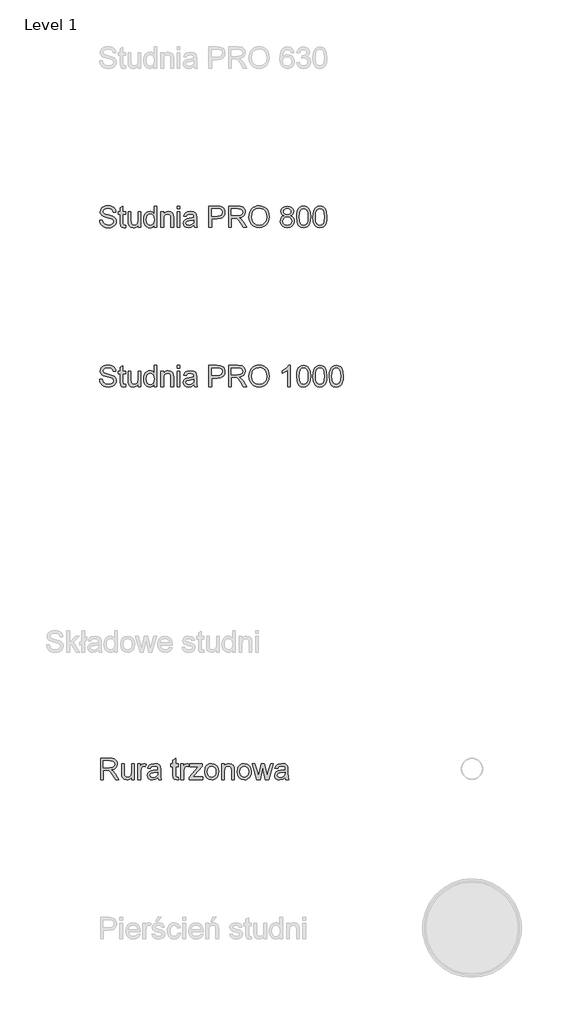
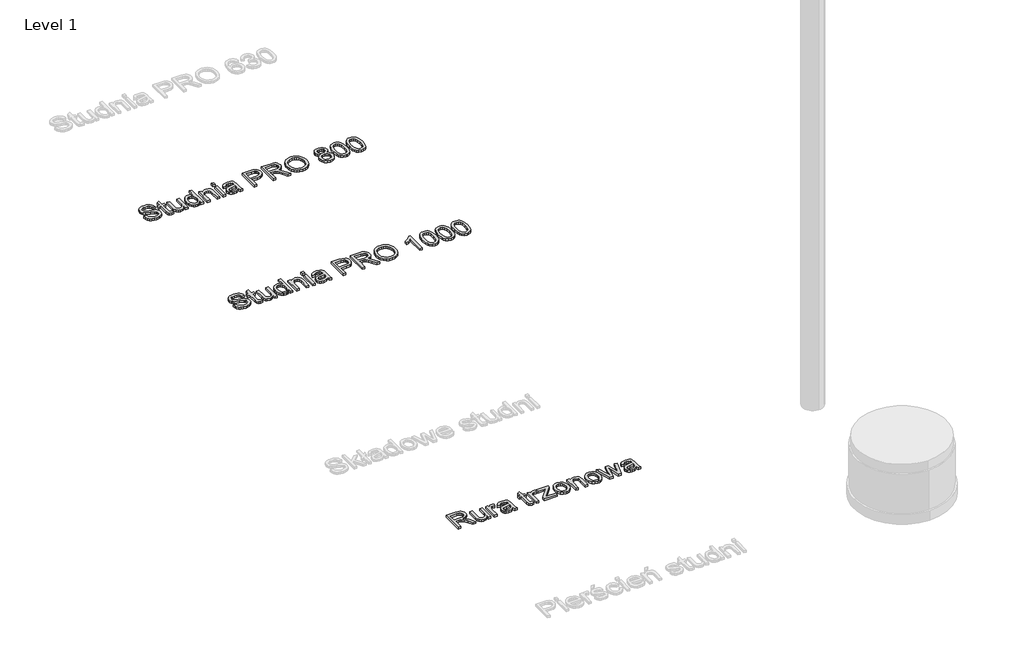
# One storey, part 5 of 8: 3 proxies.
"""IFC4 building model written with IfcOpenShell, lengths in millimetres."""

from ifc_helpers import new_model, si_unit, origin, origin_with_axes, place, context, project, spatial, polyline, outline, extrude, element, save

model = new_model("IFC4")

# Units and contexts
model_context = context("Model", 3, world=origin())
ifc_project = project(units=[si_unit("LENGTHUNIT", "METRE", prefix="MILLI")], contexts=[model_context])

# Site, building, storey
site = spatial("IfcSite", under=ifc_project)
building = spatial("IfcBuilding", under=site)
storey = spatial("IfcBuildingStorey", under=building, Name="Level 1", Elevation=0.0)

# Proxies
placement = place(None, origin())
element("IfcBuildingElementProxy", 1, Name="200mm Arial", ObjectType="200mm Arial", at=placement, inside=storey, context=model_context, shape_type="SweptSolid", body=[
    extrude(outline(polyline([(-16840.1100864, -7744.8858597), (-16814.9960089, -7744.8858597), (-16806.902605, -7770.0244627), (-16798.7724129, -7778.9149443), (-16787.1350791, -7785.9169649), (-16772.9103087, -7790.4603076), (-16757.0178065, -7791.9747551), (-16730.7755575, -7787.3884929), (-16713.8284602, -7774.7824032), (-16708.2611794, -7757.9334078), (-16712.4305087, -7742.2616348), (-16718.7826044, -7736.0628232), (-16729.5002332, -7730.857293), (-16766.0677036, -7721.2678356), (-16805.431077, -7708.8824751), (-16817.9329335, -7700.433452), (-16826.7927582, -7690.1940698), (-16832.0718649, -7678.3850577), (-16833.8315671, -7665.227145), (-16831.6549319, -7650.5179966), (-16825.1250265, -7636.8021295), (-16814.4135291, -7625.1770585), (-16799.6921179, -7616.7402981), (-16782.0215194, -7611.6083442), (-16762.46246, -7609.897693), (-16741.2724571, -7611.688052), (-16722.7312045, -7617.0591291), (-16707.5008899, -7625.9005598), (-16696.2437009, -7638.1019793), (-16689.1190529, -7652.9030982), (-16686.2863615, -7669.5436271), (-16711.4004391, -7669.5436271), (-16716.0112267, -7654.5585672), (-16725.6252095, -7643.7428365), (-16740.6470577, -7637.194537), (-16761.4814413, -7635.0117705), (-16782.8063343, -7637.1700115), (-16797.435775, -7643.6447347), (-16805.8970609, -7653.1728783), (-16808.7174895, -7664.491381), (-16806.718664, -7674.1421521), (-16800.7221875, -7681.9044622), (-16786.5464679, -7688.8451691), (-16759.7156078, -7695.9330289), (-16715.2754628, -7708.5391186), (-16700.9587218, -7717.6503293), (-16690.9707256, -7728.8952557), (-16685.1030078, -7742.1512702), (-16683.1471018, -7757.2957457), (-16685.3973134, -7772.7774463), (-16692.147948, -7787.339442), (-16703.1230942, -7799.8719553), (-16718.0468404, -7809.2652089), (-16735.9933504, -7815.1329267), (-16756.0367878, -7817.0888326), (-16780.6419619, -7814.9796425), (-16800.8938658, -7808.6520722), (-16817.0254912, -7798.0815962), (-16829.2698303, -7783.2436891), (-16837.1302423, -7765.1684204), (-16840.1100864, -7744.8858597)])), origin_with_axes(), (0.0, 0.0, 1.0), 20.0),
    extrude(outline(polyline([(-16595.2478305, -7793.0048247), (-16592.1085708, -7814.6853369), (-16610.895078, -7817.0888326), (-16631.9379281, -7812.9195034), (-16642.4348277, -7801.9811454), (-16645.4759855, -7773.4825535), (-16645.4759855, -7691.518445), (-16664.3115437, -7691.518445), (-16664.3115437, -7666.4043674), (-16645.4759855, -7666.4043674), (-16645.4759855, -7630.5481356), (-16620.361908, -7615.7838049), (-16620.361908, -7666.4043674), (-16595.2478305, -7666.4043674), (-16595.2478305, -7691.518445), (-16620.361908, -7691.518445), (-16620.361908, -7772.7467895), (-16619.0375328, -7785.6962357), (-16614.7455762, -7790.2824979), (-16606.1861884, -7791.9747551), (-16595.2478305, -7793.0048247)])), origin_with_axes(), (0.0, 0.0, 1.0), 20.0),
    extrude(outline(polyline([(-16475.9559622, -7813.949573), (-16475.9559622, -7788.5902408), (-16485.0426474, -7801.0583747), (-16495.6253862, -7809.9641847), (-16507.7041783, -7815.3076707), (-16521.279024, -7817.0888326), (-16544.8970481, -7812.0856375), (-16561.1819577, -7799.5285987), (-16568.6622249, -7781.0363971), (-16570.1337529, -7757.6881532), (-16570.1337529, -7666.4043674), (-16545.0196754, -7666.4043674), (-16545.0196754, -7745.8668784), (-16543.4990965, -7771.4714652), (-16539.8386706, -7780.0124589), (-16533.5662826, -7786.5055761), (-16514.8533518, -7791.9747551), (-16493.8840781, -7786.3829488), (-16485.5270254, -7779.779467), (-16480.0271896, -7771.1526342), (-16475.9559622, -7743.1690771), (-16475.9559622, -7666.4043674), (-16450.8418846, -7666.4043674), (-16450.8418846, -7813.949573), (-16475.9559622, -7813.949573)])), origin_with_axes(), (0.0, 0.0, 1.0), 20.0),
    extrude(outline(polyline([(-16325.2714969, -7813.949573), (-16325.2714969, -7790.2579725), (-16332.7854867, -7801.9964738), (-16341.8875004, -7810.3811176), (-16352.577538, -7815.4119039), (-16364.8555996, -7817.0888326), (-16381.0914583, -7814.6608115), (-16395.9538909, -7807.376748), (-16408.5354552, -7795.7455456), (-16417.9287088, -7780.2761077), (-16423.7780325, -7761.5938337), (-16425.7278071, -7740.324123), (-16423.9313167, -7719.3180611), (-16418.5418454, -7700.3476128), (-16409.5655248, -7684.4918989), (-16397.008486, -7672.8300396), (-16381.821091, -7665.6563407), (-16364.9537015, -7663.2651077), (-16352.6664428, -7664.975759), (-16341.8016612, -7670.1077128), (-16325.2714969, -7687.8886759), (-16325.2714969, -7613.0369527), (-16300.1574194, -7613.0369527), (-16300.1574194, -7813.949573), (-16325.2714969, -7813.949573)]), holes=[polyline([(-16400.6137295, -7740.2260211), (-16397.7810382, -7762.9427343), (-16389.2829641, -7779.0988853), (-16376.9343918, -7788.7557877), (-16362.5502058, -7791.9747551), (-16348.1721511, -7788.9029404), (-16336.1362785, -7779.6874965), (-16327.9876923, -7764.1567449), (-16325.2714969, -7742.1390075), (-16328.0367433, -7718.0672623), (-16336.3324823, -7701.3776824), (-16348.6749232, -7691.6288096), (-16363.5802754, -7688.3791853), (-16378.1116142, -7691.5000509), (-16390.0187281, -7700.8626476), (-16397.9649792, -7716.9452222), (-16400.6137295, -7740.2260211)])]), origin_with_axes(), (0.0, 0.0, 1.0), 20.0),
    extrude(outline(polyline([(-16262.4863031, -7813.949573), (-16262.4863031, -7666.4043674), (-16237.3722255, -7666.4043674), (-16237.3722255, -7687.0057592), (-16228.6472909, -7676.6192242), (-16218.1687854, -7669.2002706), (-16205.9367091, -7664.7488984), (-16191.9510619, -7663.2651077), (-16168.2349359, -7668.0475737), (-16152.0481281, -7680.6046124), (-16144.51881, -7699.0722886), (-16143.1944348, -7723.3525003), (-16143.1944348, -7813.949573), (-16168.3085123, -7813.949573), (-16168.3085123, -7726.7370146), (-16171.2025174, -7704.5169421), (-16181.4296368, -7692.7692437), (-16198.6710397, -7688.3791853), (-16213.3801881, -7690.8439946), (-16225.9188328, -7698.2384227), (-16234.5088774, -7712.5245069), (-16237.3722255, -7735.6642844), (-16237.3722255, -7813.949573), (-16262.4863031, -7813.949573)])), origin_with_axes(), (0.0, 0.0, 1.0), 20.0),
    extrude(outline(polyline([(-16108.6625782, -7638.1510302), (-16108.6625782, -7613.0369527), (-16083.5485006, -7613.0369527), (-16083.5485006, -7638.1510302), (-16108.6625782, -7638.1510302)])), origin_with_axes(), (0.0, 0.0, 1.0), 20.0),
    extrude(outline(polyline([(-16108.6625782, -7813.949573), (-16108.6625782, -7666.4043674), (-16083.5485006, -7666.4043674), (-16083.5485006, -7813.949573), (-16108.6625782, -7813.949573)])), origin_with_axes(), (0.0, 0.0, 1.0), 20.0),
    extrude(outline(polyline([(-15951.6995936, -7795.1140148), (-15976.0533816, -7812.1346884), (-16002.9578182, -7817.0888326), (-16023.945486, -7814.1089885), (-16039.4271867, -7805.169456), (-16048.9737245, -7791.5946104), (-16052.1559037, -7774.7088268), (-16047.3489123, -7754.8431991), (-16034.7182971, -7740.4222249), (-16017.1335378, -7732.1816682), (-15995.4039746, -7728.4047463), (-15951.8467464, -7719.7717822), (-15951.6995936, -7714.1799759), (-15953.4286389, -7702.9718377), (-15958.6157751, -7695.6387233), (-15970.2163207, -7690.1940698), (-15986.378603, -7688.3791853), (-16001.3391374, -7689.5870645), (-16011.7869861, -7693.2107021), (-16018.9116341, -7699.9122858), (-16023.9025665, -7710.3540031), (-16049.016644, -7707.2147434), (-16038.1518624, -7682.6892771), (-16028.8934989, -7674.4364576), (-16016.2751464, -7668.3173538), (-15983.1412414, -7663.2651077), (-15952.7051377, -7667.7287426), (-15935.5127858, -7678.9368807), (-15927.8117893, -7695.9820798), (-15926.585516, -7717.9568977), (-15926.585516, -7749.2023418), (-15925.3101918, -7792.8331464), (-15920.3069966, -7813.949573), (-15945.4210742, -7813.949573), (-15951.6995936, -7795.1140148)]), holes=[polyline([(-15951.6995936, -7744.8858597), (-15992.215664, -7752.5868562), (-16013.8225998, -7756.6580836), (-16023.6082609, -7763.2799595), (-16027.0418262, -7772.9429932), (-16025.1717594, -7780.4109977), (-16019.5615589, -7786.5301016), (-16010.3338522, -7790.6135917), (-15997.6112666, -7791.9747551), (-15984.1222601, -7790.4725703), (-15972.2028834, -7785.9660159), (-15955.8198719, -7771.4224143), (-15951.8467464, -7751.998245), (-15951.6995936, -7744.8858597)])]), origin_with_axes(), (0.0, 0.0, 1.0), 20.0),
    extrude(outline(polyline([(-15810.4329074, -7813.949573), (-15810.4329074, -7613.0369527), (-15735.9735916, -7613.0369527), (-15705.9544208, -7614.949939), (-15681.5515818, -7624.3431926), (-15672.6794943, -7632.6695885), (-15665.732656, -7643.767362), (-15661.2444956, -7656.8578296), (-15659.7484422, -7671.1623079), (-15663.7890128, -7694.8416456), (-15675.9107245, -7714.5723833), (-15685.6182107, -7722.3408248), (-15698.5783868, -7727.8897115), (-15734.2568089, -7732.328821), (-15785.3188299, -7732.328821), (-15785.3188299, -7813.949573), (-15810.4329074, -7813.949573)]), holes=[polyline([(-15785.3188299, -7707.2147434), (-15732.785281, -7707.2147434), (-15710.5161575, -7704.9093496), (-15695.8008777, -7697.9931681), (-15687.5971092, -7686.8953946), (-15684.8625197, -7672.0452247), (-15686.4750691, -7660.7635102), (-15691.3127174, -7651.2476292), (-15698.7745905, -7644.086193), (-15708.2598146, -7639.8678128), (-15733.3738922, -7638.1510302), (-15785.3188299, -7638.1510302), (-15785.3188299, -7707.2147434)])]), origin_with_axes(), (0.0, 0.0, 1.0), 20.0),
    extrude(outline(polyline([(-15625.2165856, -7813.949573), (-15625.2165856, -7613.0369527), (-15538.6416894, -7613.0369527), (-15515.3731532, -7614.3919847), (-15498.44445, -7618.4570807), (-15486.0713523, -7625.9618734), (-15476.4696322, -7637.6359954), (-15470.3076088, -7652.1121519), (-15468.253601, -7668.0230482), (-15471.6565094, -7687.8150995), (-15481.8652348, -7704.2226365), (-15499.1863454, -7716.2523778), (-15523.9264096, -7722.9110419), (-15509.6525882, -7733.6531961), (-15489.2964511, -7759.5030377), (-15455.7946641, -7813.949573), (-15484.979969, -7813.949573), (-15511.1241161, -7772.3053311), (-15530.0087252, -7744.7387069), (-15543.2770025, -7731.7156843), (-15555.2209046, -7726.9332184), (-15569.7890316, -7726.0503016), (-15600.102508, -7726.0503016), (-15600.102508, -7813.949573), (-15625.2165856, -7813.949573)]), holes=[polyline([(-15600.102508, -7700.936224), (-15543.8901392, -7700.936224), (-15515.219869, -7697.3800314), (-15505.7898272, -7692.756981), (-15498.9349594, -7686.000215), (-15493.3676785, -7668.9550159), (-15496.0225602, -7656.7045455), (-15503.9872054, -7646.8330453), (-15517.6908098, -7640.321534), (-15537.5625689, -7638.1510302), (-15600.102508, -7638.1510302), (-15600.102508, -7700.936224)])]), origin_with_axes(), (0.0, 0.0, 1.0), 20.0),
    extrude(outline(polyline([(-15433.7217444, -7716.1420132), (-15432.0478813, -7692.5761057), (-15427.026292, -7671.7141309), (-15418.6569767, -7653.5560887), (-15406.9399351, -7638.1019793), (-15392.5772089, -7625.762604), (-15376.2708394, -7616.9487645), (-15358.0208268, -7611.6604609), (-15337.8271709, -7609.897693), (-15311.4745574, -7613.2086309), (-15287.8442705, -7623.1414448), (-15268.2238975, -7638.9971588), (-15253.9010251, -7660.0767971), (-15245.1454336, -7685.3625529), (-15242.2269031, -7713.8366193), (-15245.2987178, -7742.6908305), (-15254.5141618, -7768.3322056), (-15269.3643316, -7789.4486321), (-15289.340324, -7804.7279976), (-15312.7682757, -7813.9986239), (-15337.9743237, -7817.0888326), (-15364.7316075, -7813.6736615), (-15388.4967844, -7803.4281479), (-15408.0681066, -7787.2781283), (-15422.2438261, -7766.149439), (-15430.8522648, -7741.8385705), (-15433.7217444, -7716.1420132)]), holes=[polyline([(-15408.6076668, -7716.3872678), (-15403.5860776, -7747.816653), (-15388.5213099, -7771.7657708), (-15365.8781731, -7786.922509), (-15338.1214765, -7791.9747551), (-15309.9601098, -7786.8734581), (-15287.2801848, -7771.5695671), (-15278.556783, -7760.2970496), (-15272.3257817, -7746.8846852), (-15267.3409807, -7713.6404156), (-15269.4746962, -7691.4080804), (-15275.875843, -7672.1923775), (-15286.3788739, -7656.4776849), (-15300.8182422, -7644.7483806), (-15318.2374547, -7637.445923), (-15337.6800181, -7635.0117705), (-15364.6948193, -7639.7022659), (-15387.6629186, -7653.7737523), (-15396.8262459, -7664.7228401), (-15403.3714798, -7678.808122), (-15408.6076668, -7716.3872678)])]), origin_with_axes(), (0.0, 0.0, 1.0), 20.0),
    extrude(outline(polyline([(-15102.0393375, -7703.2906688), (-15115.4854244, -7696.6687929), (-15124.9215976, -7687.6924722), (-15130.4950098, -7676.5456478), (-15132.3528139, -7663.4122605), (-15128.306112, -7643.7796247), (-15116.1660061, -7627.5560287), (-15097.2936598, -7616.6667217), (-15073.0502363, -7613.0369527), (-15048.65966, -7616.7525608), (-15029.542059, -7627.8993853), (-15017.1812239, -7644.3804986), (-15013.0609456, -7664.0989736), (-15014.8942242, -7676.8092965), (-15020.39406, -7687.7660486), (-15029.6217668, -7696.687187), (-15042.638658, -7703.2906688), (-15027.1814828, -7711.255314), (-15015.9304252, -7722.9846183), (-15009.069426, -7737.9144959), (-15006.7824262, -7755.4808612), (-15011.3196375, -7779.4912927), (-15024.9312713, -7799.332395), (-15045.949596, -7812.6497232), (-15072.7068798, -7817.0888326), (-15099.4641635, -7812.6313291), (-15120.4824882, -7799.2588186), (-15134.094122, -7779.227644), (-15138.6313333, -7754.7941481), (-15136.2523631, -7736.5472012), (-15129.1154523, -7721.5376158), (-15117.5884832, -7710.2804267), (-15102.0393375, -7703.2906688)]), holes=[polyline([(-15107.2387364, -7664.1480245), (-15105.0130503, -7675.110908), (-15098.3359921, -7683.8664995), (-15087.4037655, -7689.6054586), (-15072.4125742, -7691.518445), (-15057.7708707, -7689.6177213), (-15047.004191, -7683.9155504), (-15040.3823151, -7675.4542645), (-15038.1750231, -7665.276196), (-15040.4558915, -7654.7118513), (-15047.2984966, -7645.974654), (-15058.2123291, -7640.1069361), (-15072.7068798, -7638.1510302), (-15087.2934009, -7640.0640166), (-15098.1888393, -7645.8029757), (-15104.9762621, -7654.2152106), (-15107.2387364, -7664.1480245)]), polyline([(-15113.5172558, -7753.9112313), (-15109.323401, -7772.8203659), (-15103.5169968, -7780.9321639), (-15094.4854939, -7786.97156), (-15072.510676, -7791.9747551), (-15055.416426, -7789.3443988), (-15042.5896071, -7781.45333), (-15034.5697796, -7769.5032966), (-15031.8965038, -7754.6960463), (-15034.6556187, -7739.6374099), (-15042.9329636, -7727.4237277), (-15056.0540881, -7719.3303238), (-15073.3445419, -7716.6325225), (-15090.1996686, -7719.2935356), (-15102.8977288, -7727.2765749), (-15110.862374, -7739.2572652), (-15113.5172558, -7753.9112313)])]), origin_with_axes(), (0.0, 0.0, 1.0), 20.0),
    extrude(outline(polyline([(-14984.8076084, -7715.1119436), (-14982.962067, -7682.9529258), (-14977.425443, -7657.3054194), (-14968.2529186, -7637.7770168), (-14955.4996761, -7623.9753106), (-14939.073745, -7615.7715422), (-14918.8831548, -7613.0369527), (-14903.4075856, -7614.6556334), (-14889.5506971, -7619.5116758), (-14877.9624142, -7627.4150073), (-14869.2926619, -7638.1755557), (-14857.520438, -7667.9004209), (-14852.9587013, -7715.1119436), (-14854.7858485, -7747.0870203), (-14860.2672903, -7772.6732131), (-14869.3846324, -7792.2200098), (-14882.1194808, -7806.0768983), (-14898.5822001, -7814.335849), (-14918.8831548, -7817.0888326), (-14944.978251, -7812.3063667), (-14964.7948278, -7797.9589689), (-14973.5504193, -7782.8298218), (-14979.8044132, -7763.9789353), (-14984.8076084, -7715.1119436)]), holes=[polyline([(-14959.6935308, -7715.0628927), (-14956.7504749, -7754.5672876), (-14947.921307, -7777.4311536), (-14934.775657, -7788.3388547), (-14918.8831548, -7791.9747551), (-14902.9906526, -7788.326592), (-14889.8450027, -7777.3821026), (-14881.0158348, -7754.5059739), (-14878.0727788, -7715.0628927), (-14880.9177329, -7676.4475459), (-14889.4525952, -7653.4058703), (-14902.5737197, -7641.9647402), (-14919.1774604, -7638.1510302), (-14934.8982844, -7641.5110191), (-14947.5288995, -7651.5909857), (-14956.652373, -7676.0674012), (-14959.6935308, -7715.0628927)])]), origin_with_axes(), (0.0, 0.0, 1.0), 20.0),
    extrude(outline(polyline([(-14830.9838835, -7715.1119436), (-14829.1383421, -7682.9529258), (-14823.6017181, -7657.3054194), (-14814.4291937, -7637.7770168), (-14801.6759512, -7623.9753106), (-14785.2500201, -7615.7715422), (-14765.0594299, -7613.0369527), (-14749.5838607, -7614.6556334), (-14735.7269722, -7619.5116758), (-14724.1386893, -7627.4150073), (-14715.468937, -7638.1755557), (-14703.6967131, -7667.9004209), (-14699.1349764, -7715.1119436), (-14700.9621236, -7747.0870203), (-14706.4435654, -7772.6732131), (-14715.5609075, -7792.2200098), (-14728.2957559, -7806.0768983), (-14744.7584752, -7814.335849), (-14765.0594299, -7817.0888326), (-14791.1545261, -7812.3063667), (-14810.9711029, -7797.9589689), (-14819.7266944, -7782.8298218), (-14825.9806883, -7763.9789353), (-14830.9838835, -7715.1119436)]), holes=[polyline([(-14805.8698059, -7715.0628927), (-14802.92675, -7754.5672876), (-14794.0975821, -7777.4311536), (-14780.9519321, -7788.3388547), (-14765.0594299, -7791.9747551), (-14749.1669277, -7788.326592), (-14736.0212778, -7777.3821026), (-14727.1921099, -7754.5059739), (-14724.2490539, -7715.0628927), (-14727.094008, -7676.4475459), (-14735.6288703, -7653.4058703), (-14748.7499948, -7641.9647402), (-14765.3537355, -7638.1510302), (-14781.0745594, -7641.5110191), (-14793.7051746, -7651.5909857), (-14802.8286481, -7676.0674012), (-14805.8698059, -7715.0628927)])]), origin_with_axes(), (0.0, 0.0, 1.0), 20.0),
])
element("IfcBuildingElementProxy", 2, Name="200mm Arial", ObjectType="200mm Arial", at=placement, inside=storey, context=model_context, shape_type="SweptSolid", body=[
    extrude(outline(polyline([(-16840.1100864, -9244.8858597), (-16814.9960089, -9244.8858597), (-16806.902605, -9270.0244627), (-16798.7724129, -9278.9149443), (-16787.1350791, -9285.9169649), (-16772.9103087, -9290.4603076), (-16757.0178065, -9291.9747551), (-16730.7755575, -9287.3884929), (-16713.8284602, -9274.7824032), (-16708.2611794, -9257.9334078), (-16712.4305087, -9242.2616348), (-16718.7826044, -9236.0628232), (-16729.5002332, -9230.857293), (-16766.0677036, -9221.2678356), (-16805.431077, -9208.8824751), (-16817.9329335, -9200.433452), (-16826.7927582, -9190.1940698), (-16832.0718649, -9178.3850577), (-16833.8315671, -9165.227145), (-16831.6549319, -9150.5179966), (-16825.1250265, -9136.8021295), (-16814.4135291, -9125.1770585), (-16799.6921179, -9116.7402981), (-16782.0215194, -9111.6083442), (-16762.46246, -9109.897693), (-16741.2724571, -9111.688052), (-16722.7312045, -9117.0591291), (-16707.5008899, -9125.9005598), (-16696.2437009, -9138.1019793), (-16689.1190529, -9152.9030982), (-16686.2863615, -9169.5436271), (-16711.4004391, -9169.5436271), (-16716.0112267, -9154.5585672), (-16725.6252095, -9143.7428365), (-16740.6470577, -9137.194537), (-16761.4814413, -9135.0117705), (-16782.8063343, -9137.1700115), (-16797.435775, -9143.6447347), (-16805.8970609, -9153.1728783), (-16808.7174895, -9164.491381), (-16806.718664, -9174.1421521), (-16800.7221875, -9181.9044622), (-16786.5464679, -9188.8451691), (-16759.7156078, -9195.9330289), (-16715.2754628, -9208.5391186), (-16700.9587218, -9217.6503293), (-16690.9707256, -9228.8952557), (-16685.1030078, -9242.1512702), (-16683.1471018, -9257.2957457), (-16685.3973134, -9272.7774463), (-16692.147948, -9287.339442), (-16703.1230942, -9299.8719553), (-16718.0468404, -9309.2652089), (-16735.9933504, -9315.1329267), (-16756.0367878, -9317.0888326), (-16780.6419619, -9314.9796425), (-16800.8938658, -9308.6520722), (-16817.0254912, -9298.0815962), (-16829.2698303, -9283.2436891), (-16837.1302423, -9265.1684204), (-16840.1100864, -9244.8858597)])), origin_with_axes(), (0.0, 0.0, 1.0), 20.0),
    extrude(outline(polyline([(-16595.2478305, -9293.0048247), (-16592.1085708, -9314.6853369), (-16610.895078, -9317.0888326), (-16631.9379281, -9312.9195034), (-16642.4348277, -9301.9811454), (-16645.4759855, -9273.4825535), (-16645.4759855, -9191.518445), (-16664.3115437, -9191.518445), (-16664.3115437, -9166.4043674), (-16645.4759855, -9166.4043674), (-16645.4759855, -9130.5481356), (-16620.361908, -9115.7838049), (-16620.361908, -9166.4043674), (-16595.2478305, -9166.4043674), (-16595.2478305, -9191.518445), (-16620.361908, -9191.518445), (-16620.361908, -9272.7467895), (-16619.0375328, -9285.6962357), (-16614.7455762, -9290.2824979), (-16606.1861884, -9291.9747551), (-16595.2478305, -9293.0048247)])), origin_with_axes(), (0.0, 0.0, 1.0), 20.0),
    extrude(outline(polyline([(-16475.9559622, -9313.949573), (-16475.9559622, -9288.5902408), (-16485.0426474, -9301.0583747), (-16495.6253862, -9309.9641847), (-16507.7041783, -9315.3076707), (-16521.279024, -9317.0888326), (-16544.8970481, -9312.0856375), (-16561.1819577, -9299.5285987), (-16568.6622249, -9281.0363971), (-16570.1337529, -9257.6881532), (-16570.1337529, -9166.4043674), (-16545.0196754, -9166.4043674), (-16545.0196754, -9245.8668784), (-16543.4990965, -9271.4714652), (-16539.8386706, -9280.0124589), (-16533.5662826, -9286.5055761), (-16514.8533518, -9291.9747551), (-16493.8840781, -9286.3829488), (-16485.5270254, -9279.779467), (-16480.0271896, -9271.1526342), (-16475.9559622, -9243.1690771), (-16475.9559622, -9166.4043674), (-16450.8418846, -9166.4043674), (-16450.8418846, -9313.949573), (-16475.9559622, -9313.949573)])), origin_with_axes(), (0.0, 0.0, 1.0), 20.0),
    extrude(outline(polyline([(-16325.2714969, -9313.949573), (-16325.2714969, -9290.2579725), (-16332.7854867, -9301.9964738), (-16341.8875004, -9310.3811176), (-16352.577538, -9315.4119039), (-16364.8555996, -9317.0888326), (-16381.0914583, -9314.6608115), (-16395.9538909, -9307.376748), (-16408.5354552, -9295.7455456), (-16417.9287088, -9280.2761077), (-16423.7780325, -9261.5938337), (-16425.7278071, -9240.324123), (-16423.9313167, -9219.3180611), (-16418.5418454, -9200.3476128), (-16409.5655248, -9184.4918989), (-16397.008486, -9172.8300396), (-16381.821091, -9165.6563407), (-16364.9537015, -9163.2651077), (-16352.6664428, -9164.975759), (-16341.8016612, -9170.1077128), (-16325.2714969, -9187.8886759), (-16325.2714969, -9113.0369527), (-16300.1574194, -9113.0369527), (-16300.1574194, -9313.949573), (-16325.2714969, -9313.949573)]), holes=[polyline([(-16400.6137295, -9240.2260211), (-16397.7810382, -9262.9427343), (-16389.2829641, -9279.0988853), (-16376.9343918, -9288.7557877), (-16362.5502058, -9291.9747551), (-16348.1721511, -9288.9029404), (-16336.1362785, -9279.6874965), (-16327.9876923, -9264.1567449), (-16325.2714969, -9242.1390075), (-16328.0367433, -9218.0672623), (-16336.3324823, -9201.3776824), (-16348.6749232, -9191.6288096), (-16363.5802754, -9188.3791853), (-16378.1116142, -9191.5000509), (-16390.0187281, -9200.8626476), (-16397.9649792, -9216.9452222), (-16400.6137295, -9240.2260211)])]), origin_with_axes(), (0.0, 0.0, 1.0), 20.0),
    extrude(outline(polyline([(-16262.4863031, -9313.949573), (-16262.4863031, -9166.4043674), (-16237.3722255, -9166.4043674), (-16237.3722255, -9187.0057592), (-16228.6472909, -9176.6192242), (-16218.1687854, -9169.2002706), (-16205.9367091, -9164.7488984), (-16191.9510619, -9163.2651077), (-16168.2349359, -9168.0475737), (-16152.0481281, -9180.6046124), (-16144.51881, -9199.0722886), (-16143.1944348, -9223.3525003), (-16143.1944348, -9313.949573), (-16168.3085123, -9313.949573), (-16168.3085123, -9226.7370146), (-16171.2025174, -9204.5169421), (-16181.4296368, -9192.7692437), (-16198.6710397, -9188.3791853), (-16213.3801881, -9190.8439946), (-16225.9188328, -9198.2384227), (-16234.5088774, -9212.5245069), (-16237.3722255, -9235.6642844), (-16237.3722255, -9313.949573), (-16262.4863031, -9313.949573)])), origin_with_axes(), (0.0, 0.0, 1.0), 20.0),
    extrude(outline(polyline([(-16108.6625782, -9138.1510302), (-16108.6625782, -9113.0369527), (-16083.5485006, -9113.0369527), (-16083.5485006, -9138.1510302), (-16108.6625782, -9138.1510302)])), origin_with_axes(), (0.0, 0.0, 1.0), 20.0),
    extrude(outline(polyline([(-16108.6625782, -9313.949573), (-16108.6625782, -9166.4043674), (-16083.5485006, -9166.4043674), (-16083.5485006, -9313.949573), (-16108.6625782, -9313.949573)])), origin_with_axes(), (0.0, 0.0, 1.0), 20.0),
    extrude(outline(polyline([(-15951.6995936, -9295.1140148), (-15976.0533816, -9312.1346884), (-16002.9578182, -9317.0888326), (-16023.945486, -9314.1089885), (-16039.4271867, -9305.169456), (-16048.9737245, -9291.5946104), (-16052.1559037, -9274.7088268), (-16047.3489123, -9254.8431991), (-16034.7182971, -9240.4222249), (-16017.1335378, -9232.1816682), (-15995.4039746, -9228.4047463), (-15951.8467464, -9219.7717822), (-15951.6995936, -9214.1799759), (-15953.4286389, -9202.9718377), (-15958.6157751, -9195.6387233), (-15970.2163207, -9190.1940698), (-15986.378603, -9188.3791853), (-16001.3391374, -9189.5870645), (-16011.7869861, -9193.2107021), (-16018.9116341, -9199.9122858), (-16023.9025665, -9210.3540031), (-16049.016644, -9207.2147434), (-16038.1518624, -9182.6892771), (-16028.8934989, -9174.4364576), (-16016.2751464, -9168.3173538), (-15983.1412414, -9163.2651077), (-15952.7051377, -9167.7287426), (-15935.5127858, -9178.9368807), (-15927.8117893, -9195.9820798), (-15926.585516, -9217.9568977), (-15926.585516, -9249.2023418), (-15925.3101918, -9292.8331464), (-15920.3069966, -9313.949573), (-15945.4210742, -9313.949573), (-15951.6995936, -9295.1140148)]), holes=[polyline([(-15951.6995936, -9244.8858597), (-15992.215664, -9252.5868562), (-16013.8225998, -9256.6580836), (-16023.6082609, -9263.2799595), (-16027.0418262, -9272.9429932), (-16025.1717594, -9280.4109977), (-16019.5615589, -9286.5301016), (-16010.3338522, -9290.6135917), (-15997.6112666, -9291.9747551), (-15984.1222601, -9290.4725703), (-15972.2028834, -9285.9660159), (-15955.8198719, -9271.4224143), (-15951.8467464, -9251.998245), (-15951.6995936, -9244.8858597)])]), origin_with_axes(), (0.0, 0.0, 1.0), 20.0),
    extrude(outline(polyline([(-15810.4329074, -9313.949573), (-15810.4329074, -9113.0369527), (-15735.9735916, -9113.0369527), (-15705.9544208, -9114.949939), (-15681.5515818, -9124.3431926), (-15672.6794943, -9132.6695885), (-15665.732656, -9143.767362), (-15661.2444956, -9156.8578296), (-15659.7484422, -9171.1623079), (-15663.7890128, -9194.8416456), (-15675.9107245, -9214.5723833), (-15685.6182107, -9222.3408248), (-15698.5783868, -9227.8897115), (-15734.2568089, -9232.328821), (-15785.3188299, -9232.328821), (-15785.3188299, -9313.949573), (-15810.4329074, -9313.949573)]), holes=[polyline([(-15785.3188299, -9207.2147434), (-15732.785281, -9207.2147434), (-15710.5161575, -9204.9093496), (-15695.8008777, -9197.9931681), (-15687.5971092, -9186.8953946), (-15684.8625197, -9172.0452247), (-15686.4750691, -9160.7635102), (-15691.3127174, -9151.2476292), (-15698.7745905, -9144.086193), (-15708.2598146, -9139.8678128), (-15733.3738922, -9138.1510302), (-15785.3188299, -9138.1510302), (-15785.3188299, -9207.2147434)])]), origin_with_axes(), (0.0, 0.0, 1.0), 20.0),
    extrude(outline(polyline([(-15625.2165856, -9313.949573), (-15625.2165856, -9113.0369527), (-15538.6416894, -9113.0369527), (-15515.3731532, -9114.3919847), (-15498.44445, -9118.4570807), (-15486.0713523, -9125.9618734), (-15476.4696322, -9137.6359954), (-15470.3076088, -9152.1121519), (-15468.253601, -9168.0230482), (-15471.6565094, -9187.8150995), (-15481.8652348, -9204.2226365), (-15499.1863454, -9216.2523778), (-15523.9264096, -9222.9110419), (-15509.6525882, -9233.6531961), (-15489.2964511, -9259.5030377), (-15455.7946641, -9313.949573), (-15484.979969, -9313.949573), (-15511.1241161, -9272.3053311), (-15530.0087252, -9244.7387069), (-15543.2770025, -9231.7156843), (-15555.2209046, -9226.9332184), (-15569.7890316, -9226.0503016), (-15600.102508, -9226.0503016), (-15600.102508, -9313.949573), (-15625.2165856, -9313.949573)]), holes=[polyline([(-15600.102508, -9200.936224), (-15543.8901392, -9200.936224), (-15515.219869, -9197.3800314), (-15505.7898272, -9192.756981), (-15498.9349594, -9186.000215), (-15493.3676785, -9168.9550159), (-15496.0225602, -9156.7045455), (-15503.9872054, -9146.8330453), (-15517.6908098, -9140.321534), (-15537.5625689, -9138.1510302), (-15600.102508, -9138.1510302), (-15600.102508, -9200.936224)])]), origin_with_axes(), (0.0, 0.0, 1.0), 20.0),
    extrude(outline(polyline([(-15433.7217444, -9216.1420132), (-15432.0478813, -9192.5761057), (-15427.026292, -9171.7141309), (-15418.6569767, -9153.5560887), (-15406.9399351, -9138.1019793), (-15392.5772089, -9125.762604), (-15376.2708394, -9116.9487645), (-15358.0208268, -9111.6604609), (-15337.8271709, -9109.897693), (-15311.4745574, -9113.2086309), (-15287.8442705, -9123.1414448), (-15268.2238975, -9138.9971588), (-15253.9010251, -9160.0767971), (-15245.1454336, -9185.3625529), (-15242.2269031, -9213.8366193), (-15245.2987178, -9242.6908305), (-15254.5141618, -9268.3322056), (-15269.3643316, -9289.4486321), (-15289.340324, -9304.7279976), (-15312.7682757, -9313.9986239), (-15337.9743237, -9317.0888326), (-15364.7316075, -9313.6736615), (-15388.4967844, -9303.4281479), (-15408.0681066, -9287.2781283), (-15422.2438261, -9266.149439), (-15430.8522648, -9241.8385705), (-15433.7217444, -9216.1420132)]), holes=[polyline([(-15408.6076668, -9216.3872678), (-15403.5860776, -9247.816653), (-15388.5213099, -9271.7657708), (-15365.8781731, -9286.922509), (-15338.1214765, -9291.9747551), (-15309.9601098, -9286.8734581), (-15287.2801848, -9271.5695671), (-15278.556783, -9260.2970496), (-15272.3257817, -9246.8846852), (-15267.3409807, -9213.6404156), (-15269.4746962, -9191.4080804), (-15275.875843, -9172.1923775), (-15286.3788739, -9156.4776849), (-15300.8182422, -9144.7483806), (-15318.2374547, -9137.445923), (-15337.6800181, -9135.0117705), (-15364.6948193, -9139.7022659), (-15387.6629186, -9153.7737523), (-15396.8262459, -9164.7228401), (-15403.3714798, -9178.808122), (-15408.6076668, -9216.3872678)])]), origin_with_axes(), (0.0, 0.0, 1.0), 20.0),
    extrude(outline(polyline([(-15044.4535425, -9313.949573), (-15069.5676201, -9313.949573), (-15069.5676201, -9157.3789958), (-15093.3573224, -9174.3260931), (-15119.7957751, -9187.0057592), (-15119.7957751, -9163.2651077), (-15082.9830502, -9139.769711), (-15069.5124378, -9126.1948653), (-15060.6403503, -9113.0369527), (-15044.4535425, -9113.0369527), (-15044.4535425, -9313.949573)])), origin_with_axes(), (0.0, 0.0, 1.0), 20.0),
    extrude(outline(polyline([(-14984.8076084, -9215.1119436), (-14982.962067, -9182.9529258), (-14977.425443, -9157.3054194), (-14968.2529186, -9137.7770168), (-14955.4996761, -9123.9753106), (-14939.073745, -9115.7715422), (-14918.8831548, -9113.0369527), (-14903.4075856, -9114.6556334), (-14889.5506971, -9119.5116758), (-14877.9624142, -9127.4150073), (-14869.2926619, -9138.1755557), (-14857.520438, -9167.9004209), (-14852.9587013, -9215.1119436), (-14854.7858485, -9247.0870203), (-14860.2672903, -9272.6732131), (-14869.3846324, -9292.2200098), (-14882.1194808, -9306.0768983), (-14898.5822001, -9314.335849), (-14918.8831548, -9317.0888326), (-14944.978251, -9312.3063667), (-14964.7948278, -9297.9589689), (-14973.5504193, -9282.8298218), (-14979.8044132, -9263.9789353), (-14984.8076084, -9215.1119436)]), holes=[polyline([(-14959.6935308, -9215.0628927), (-14956.7504749, -9254.5672876), (-14947.921307, -9277.4311536), (-14934.775657, -9288.3388547), (-14918.8831548, -9291.9747551), (-14902.9906526, -9288.326592), (-14889.8450027, -9277.3821026), (-14881.0158348, -9254.5059739), (-14878.0727788, -9215.0628927), (-14880.9177329, -9176.4475459), (-14889.4525952, -9153.4058703), (-14902.5737197, -9141.9647402), (-14919.1774604, -9138.1510302), (-14934.8982844, -9141.5110191), (-14947.5288995, -9151.5909857), (-14956.652373, -9176.0674012), (-14959.6935308, -9215.0628927)])]), origin_with_axes(), (0.0, 0.0, 1.0), 20.0),
    extrude(outline(polyline([(-14830.9838835, -9215.1119436), (-14829.1383421, -9182.9529258), (-14823.6017181, -9157.3054194), (-14814.4291937, -9137.7770168), (-14801.6759512, -9123.9753106), (-14785.2500201, -9115.7715422), (-14765.0594299, -9113.0369527), (-14749.5838607, -9114.6556334), (-14735.7269722, -9119.5116758), (-14724.1386893, -9127.4150073), (-14715.468937, -9138.1755557), (-14703.6967131, -9167.9004209), (-14699.1349764, -9215.1119436), (-14700.9621236, -9247.0870203), (-14706.4435654, -9272.6732131), (-14715.5609075, -9292.2200098), (-14728.2957559, -9306.0768983), (-14744.7584752, -9314.335849), (-14765.0594299, -9317.0888326), (-14791.1545261, -9312.3063667), (-14810.9711029, -9297.9589689), (-14819.7266944, -9282.8298218), (-14825.9806883, -9263.9789353), (-14830.9838835, -9215.1119436)]), holes=[polyline([(-14805.8698059, -9215.0628927), (-14802.92675, -9254.5672876), (-14794.0975821, -9277.4311536), (-14780.9519321, -9288.3388547), (-14765.0594299, -9291.9747551), (-14749.1669277, -9288.326592), (-14736.0212778, -9277.3821026), (-14727.1921099, -9254.5059739), (-14724.2490539, -9215.0628927), (-14727.094008, -9176.4475459), (-14735.6288703, -9153.4058703), (-14748.7499948, -9141.9647402), (-14765.3537355, -9138.1510302), (-14781.0745594, -9141.5110191), (-14793.7051746, -9151.5909857), (-14802.8286481, -9176.0674012), (-14805.8698059, -9215.0628927)])]), origin_with_axes(), (0.0, 0.0, 1.0), 20.0),
    extrude(outline(polyline([(-14677.1601585, -9215.1119436), (-14675.3146172, -9182.9529258), (-14669.7779932, -9157.3054194), (-14660.6054688, -9137.7770168), (-14647.8522263, -9123.9753106), (-14631.4262952, -9115.7715422), (-14611.235705, -9113.0369527), (-14595.7601357, -9114.6556334), (-14581.9032473, -9119.5116758), (-14570.3149644, -9127.4150073), (-14561.6452121, -9138.1755557), (-14549.8729882, -9167.9004209), (-14545.3112515, -9215.1119436), (-14547.1383987, -9247.0870203), (-14552.6198404, -9272.6732131), (-14561.7371826, -9292.2200098), (-14574.472031, -9306.0768983), (-14590.9347502, -9314.335849), (-14611.235705, -9317.0888326), (-14637.3308012, -9312.3063667), (-14657.147378, -9297.9589689), (-14665.9029695, -9282.8298218), (-14672.1569634, -9263.9789353), (-14677.1601585, -9215.1119436)]), holes=[polyline([(-14652.046081, -9215.0628927), (-14649.103025, -9254.5672876), (-14640.2738572, -9277.4311536), (-14627.1282072, -9288.3388547), (-14611.235705, -9291.9747551), (-14595.3432028, -9288.326592), (-14582.1975529, -9277.3821026), (-14573.368385, -9254.5059739), (-14570.425329, -9215.0628927), (-14573.2702831, -9176.4475459), (-14581.8051454, -9153.4058703), (-14594.9262699, -9141.9647402), (-14611.5300106, -9138.1510302), (-14627.2508345, -9141.5110191), (-14639.8814497, -9151.5909857), (-14649.0049232, -9176.0674012), (-14652.046081, -9215.0628927)])]), origin_with_axes(), (0.0, 0.0, 1.0), 20.0),
])
element("IfcBuildingElementProxy", 3, Name="200mm Arial", ObjectType="200mm Arial", at=placement, inside=storey, context=model_context, shape_type="SweptSolid", body=[
    extrude(outline(polyline([(-16830.6923074, -13013.949573), (-16830.6923074, -12813.0369527), (-16744.1174112, -12813.0369527), (-16720.848875, -12814.3919847), (-16703.9201718, -12818.4570807), (-16691.5470741, -12825.9618734), (-16681.945354, -12837.6359954), (-16675.7833306, -12852.1121519), (-16673.7293228, -12868.0230482), (-16677.1322312, -12887.8150995), (-16687.3409566, -12904.2226365), (-16704.6620672, -12916.2523778), (-16729.4021314, -12922.9110419), (-16715.12831, -12933.6531961), (-16694.7721729, -12959.5030377), (-16661.2703859, -13013.949573), (-16690.4556908, -13013.949573), (-16716.5998379, -12972.3053311), (-16735.484447, -12944.7387069), (-16748.7527243, -12931.7156843), (-16760.6966264, -12926.9332184), (-16775.2647534, -12926.0503016), (-16805.5782298, -12926.0503016), (-16805.5782298, -13013.949573), (-16830.6923074, -13013.949573)]), holes=[polyline([(-16805.5782298, -12900.936224), (-16749.365861, -12900.936224), (-16720.6955908, -12897.3800314), (-16711.265549, -12892.756981), (-16704.4106812, -12886.000215), (-16698.8434003, -12868.9550159), (-16701.498282, -12856.7045455), (-16709.4629272, -12846.8330453), (-16723.1665315, -12840.321534), (-16743.0382907, -12838.1510302), (-16805.5782298, -12838.1510302), (-16805.5782298, -12900.936224)])]), origin_with_axes(), (0.0, 0.0, 1.0), 20.0),
    extrude(outline(polyline([(-16538.741156, -13013.949573), (-16538.741156, -12988.5902408), (-16547.8278413, -13001.0583747), (-16558.41058, -13009.9641847), (-16570.4893722, -13015.3076707), (-16584.0642178, -13017.0888326), (-16607.6822419, -13012.0856375), (-16623.9671515, -12999.5285987), (-16631.4474188, -12981.0363971), (-16632.9189468, -12957.6881532), (-16632.9189468, -12866.4043674), (-16607.8048692, -12866.4043674), (-16607.8048692, -12945.8668784), (-16606.2842903, -12971.4714652), (-16602.6238645, -12980.0124589), (-16596.3514764, -12986.5055761), (-16577.6385456, -12991.9747551), (-16556.6692719, -12986.3829488), (-16548.3122192, -12979.779467), (-16542.8123834, -12971.1526342), (-16538.741156, -12943.1690771), (-16538.741156, -12866.4043674), (-16513.6270785, -12866.4043674), (-16513.6270785, -13013.949573), (-16538.741156, -13013.949573)])), origin_with_axes(), (0.0, 0.0, 1.0), 20.0),
    extrude(outline(polyline([(-16479.0952218, -13013.949573), (-16479.0952218, -12866.4043674), (-16457.120404, -12866.4043674), (-16457.120404, -12888.2320325), (-16441.5222074, -12868.1211501), (-16425.8259089, -12863.2651077), (-16413.3179211, -12865.2026196), (-16400.6137295, -12871.0151551), (-16409.001439, -12893.5295332), (-16426.6597748, -12888.3791853), (-16440.8600198, -12893.3333295), (-16449.9099169, -12907.0675906), (-16453.9811443, -12936.4000484), (-16453.9811443, -13013.949573), (-16479.0952218, -13013.949573)])), origin_with_axes(), (0.0, 0.0, 1.0), 20.0),
    extrude(outline(polyline([(-16290.7396403, -12995.1140148), (-16315.0934284, -13012.1346884), (-16341.997865, -13017.0888326), (-16362.9855328, -13014.1089885), (-16378.4672334, -13005.169456), (-16388.0137712, -12991.5946104), (-16391.1959505, -12974.7088268), (-16386.3889591, -12954.8431991), (-16373.7583439, -12940.4222249), (-16356.1735845, -12932.1816682), (-16334.4440213, -12928.4047463), (-16290.8867931, -12919.7717822), (-16290.7396403, -12914.1799759), (-16292.4686857, -12902.9718377), (-16297.6558218, -12895.6387233), (-16309.2563674, -12890.1940698), (-16325.4186497, -12888.3791853), (-16340.3791842, -12889.5870645), (-16350.8270329, -12893.2107021), (-16357.9516808, -12899.9122858), (-16362.9426132, -12910.3540031), (-16388.0566908, -12907.2147434), (-16377.1919092, -12882.6892771), (-16367.9335456, -12874.4364576), (-16355.3151932, -12868.3173538), (-16322.1812882, -12863.2651077), (-16291.7451844, -12867.7287426), (-16274.5528325, -12878.9368807), (-16266.8518361, -12895.9820798), (-16265.6255628, -12917.9568977), (-16265.6255628, -12949.2023418), (-16264.3502385, -12992.8331464), (-16259.3470434, -13013.949573), (-16284.4611209, -13013.949573), (-16290.7396403, -12995.1140148)]), holes=[polyline([(-16290.7396403, -12944.8858597), (-16331.2557107, -12952.5868562), (-16352.8626466, -12956.6580836), (-16362.6483076, -12963.2799595), (-16366.0818729, -12972.9429932), (-16364.2118061, -12980.4109977), (-16358.6016057, -12986.5301016), (-16349.373899, -12990.6135917), (-16336.6513133, -12991.9747551), (-16323.1623068, -12990.4725703), (-16311.2429302, -12985.9660159), (-16294.8599187, -12971.4224143), (-16290.8867931, -12951.998245), (-16290.7396403, -12944.8858597)])]), origin_with_axes(), (0.0, 0.0, 1.0), 20.0),
    extrude(outline(polyline([(-16099.2447991, -12993.0048247), (-16096.1055394, -13014.6853369), (-16114.8920466, -13017.0888326), (-16135.9348967, -13012.9195034), (-16146.4317963, -13001.9811454), (-16149.4729542, -12973.4825535), (-16149.4729542, -12891.518445), (-16168.3085123, -12891.518445), (-16168.3085123, -12866.4043674), (-16149.4729542, -12866.4043674), (-16149.4729542, -12830.5481356), (-16124.3588766, -12815.7838049), (-16124.3588766, -12866.4043674), (-16099.2447991, -12866.4043674), (-16099.2447991, -12891.518445), (-16124.3588766, -12891.518445), (-16124.3588766, -12972.7467895), (-16123.0345014, -12985.6962357), (-16118.7425448, -12990.2824979), (-16110.1831571, -12991.9747551), (-16099.2447991, -12993.0048247)])), origin_with_axes(), (0.0, 0.0, 1.0), 20.0),
    extrude(outline(polyline([(-16074.1307216, -13013.949573), (-16074.1307216, -12866.4043674), (-16052.1559037, -12866.4043674), (-16052.1559037, -12888.2320325), (-16036.5577071, -12868.1211501), (-16020.8614087, -12863.2651077), (-16008.3534208, -12865.2026196), (-15995.6492293, -12871.0151551), (-16004.0369387, -12893.5295332), (-16021.6952745, -12888.3791853), (-16035.8955195, -12893.3333295), (-16044.9454166, -12907.0675906), (-16049.016644, -12936.4000484), (-16049.016644, -13013.949573), (-16074.1307216, -13013.949573)])), origin_with_axes(), (0.0, 0.0, 1.0), 20.0),
    extrude(outline(polyline([(-15995.6492293, -13013.949573), (-15995.6492293, -12990.3070234), (-15908.9762312, -12891.518445), (-15934.629869, -12891.518445), (-15989.3707099, -12891.518445), (-15989.3707099, -12866.4043674), (-15873.2181013, -12866.4043674), (-15873.2181013, -12887.7415231), (-15950.0809128, -12975.3955399), (-15961.8531366, -12988.8354954), (-15932.8149845, -12988.8354954), (-15870.0788416, -12988.8354954), (-15870.0788416, -13013.949573), (-15995.6492293, -13013.949573)])), origin_with_axes(), (0.0, 0.0, 1.0), 20.0),
    extrude(outline(polyline([(-15851.2432834, -12940.1769702), (-15845.8108926, -12904.6027813), (-15839.0204041, -12890.7796153), (-15829.5137202, -12879.5990683), (-15809.3783124, -12867.3485979), (-15785.2697789, -12863.2651077), (-15758.8865085, -12868.237646), (-15737.8130016, -12883.1552609), (-15723.9990326, -12906.8407301), (-15719.3943763, -12938.116831), (-15721.42999, -12963.4884259), (-15727.5368312, -12982.8022307), (-15737.5370901, -12997.2661245), (-15751.2529571, -13008.0879865), (-15767.5439981, -13014.8386211), (-15785.2697789, -13017.0888326), (-15811.9718804, -13012.1346884), (-15833.0208619, -12997.2722558), (-15846.687678, -12973.090146), (-15851.2432834, -12940.1769702)]), holes=[polyline([(-15826.1292059, -12940.1279193), (-15823.2229381, -12962.8568952), (-15814.5041348, -12979.0498343), (-15801.3830103, -12988.7435249), (-15785.2697789, -12991.9747551), (-15769.230124, -12988.7251308), (-15756.1335249, -12978.9762579), (-15747.4147216, -12962.568721), (-15744.5084539, -12939.3431043), (-15747.4331157, -12917.276316), (-15756.2071013, -12901.304106), (-15769.3220945, -12891.6104155), (-15785.2697789, -12888.3791853), (-15801.3830103, -12891.5981527), (-15814.5041348, -12901.2550551), (-15823.2229381, -12917.4112061), (-15826.1292059, -12940.1279193)])]), origin_with_axes(), (0.0, 0.0, 1.0), 20.0),
    extrude(outline(polyline([(-15691.1410391, -13013.949573), (-15691.1410391, -12866.4043674), (-15666.0269616, -12866.4043674), (-15666.0269616, -12887.0057592), (-15657.3020269, -12876.6192242), (-15646.8235214, -12869.2002706), (-15634.5914451, -12864.7488984), (-15620.6057979, -12863.2651077), (-15596.8896719, -12868.0475737), (-15580.7028642, -12880.6046124), (-15573.173546, -12899.0722886), (-15571.8491708, -12923.3525003), (-15571.8491708, -13013.949573), (-15596.9632483, -13013.949573), (-15596.9632483, -12926.7370146), (-15599.8572534, -12904.5169421), (-15610.0843728, -12892.7692437), (-15627.3257757, -12888.3791853), (-15642.0349241, -12890.8439946), (-15654.5735688, -12898.2384227), (-15663.1636134, -12912.5245069), (-15666.0269616, -12935.6642844), (-15666.0269616, -13013.949573), (-15691.1410391, -13013.949573)])), origin_with_axes(), (0.0, 0.0, 1.0), 20.0),
    extrude(outline(polyline([(-15543.5958336, -12940.1769702), (-15538.1634428, -12904.6027813), (-15531.3729543, -12890.7796153), (-15521.8662704, -12879.5990683), (-15501.7308625, -12867.3485979), (-15477.6223291, -12863.2651077), (-15451.2390587, -12868.237646), (-15430.1655517, -12883.1552609), (-15416.3515828, -12906.8407301), (-15411.7469265, -12938.116831), (-15413.7825402, -12963.4884259), (-15419.8893813, -12982.8022307), (-15429.8896402, -12997.2661245), (-15443.6055073, -13008.0879865), (-15459.8965483, -13014.8386211), (-15477.6223291, -13017.0888326), (-15504.3244306, -13012.1346884), (-15525.3734121, -12997.2722558), (-15539.0402282, -12973.090146), (-15543.5958336, -12940.1769702)]), holes=[polyline([(-15518.481756, -12940.1279193), (-15515.5754883, -12962.8568952), (-15506.856685, -12979.0498343), (-15493.7355605, -12988.7435249), (-15477.6223291, -12991.9747551), (-15461.5826741, -12988.7251308), (-15448.4860751, -12978.9762579), (-15439.7672718, -12962.568721), (-15436.861004, -12939.3431043), (-15439.7856659, -12917.276316), (-15448.5596515, -12901.304106), (-15461.6746446, -12891.6104155), (-15477.6223291, -12888.3791853), (-15493.7355605, -12891.5981527), (-15506.856685, -12901.2550551), (-15515.5754883, -12917.4112061), (-15518.481756, -12940.1279193)])]), origin_with_axes(), (0.0, 0.0, 1.0), 20.0),
    extrude(outline(polyline([(-15359.0171739, -13013.949573), (-15403.8987773, -12866.4043674), (-15377.8036811, -12866.4043674), (-15352.346247, -12952.4887543), (-15344.7433525, -12983.2436891), (-15338.513884, -12953.6169257), (-15318.2558488, -12866.4043674), (-15288.3347799, -12866.4043674), (-15268.1748465, -12953.3716711), (-15262.6320911, -12980.2025313), (-15254.68584, -12951.9001431), (-15229.179355, -12866.4043674), (-15202.986157, -12866.4043674), (-15248.2111169, -13013.949573), (-15278.5736443, -13013.949573), (-15297.8506608, -12927.4237277), (-15303.4424671, -12900.4457147), (-15328.31129, -13013.949573), (-15359.0171739, -13013.949573)])), origin_with_axes(), (0.0, 0.0, 1.0), 20.0),
    extrude(outline(polyline([(-15091.5424379, -12995.1140148), (-15115.896226, -13012.1346884), (-15142.8006626, -13017.0888326), (-15163.7883304, -13014.1089885), (-15179.270031, -13005.169456), (-15188.8165688, -12991.5946104), (-15191.9987481, -12974.7088268), (-15187.1917567, -12954.8431991), (-15174.5611415, -12940.4222249), (-15156.9763821, -12932.1816682), (-15135.2468189, -12928.4047463), (-15091.6895907, -12919.7717822), (-15091.5424379, -12914.1799759), (-15093.2714833, -12902.9718377), (-15098.4586194, -12895.6387233), (-15110.059165, -12890.1940698), (-15126.2214473, -12888.3791853), (-15141.1819818, -12889.5870645), (-15151.6298305, -12893.2107021), (-15158.7544784, -12899.9122858), (-15163.7454108, -12910.3540031), (-15188.8594884, -12907.2147434), (-15177.9947068, -12882.6892771), (-15168.7363432, -12874.4364576), (-15156.1179908, -12868.3173538), (-15122.9840858, -12863.2651077), (-15092.547982, -12867.7287426), (-15075.3556301, -12878.9368807), (-15067.6546337, -12895.9820798), (-15066.4283604, -12917.9568977), (-15066.4283604, -12949.2023418), (-15065.1530361, -12992.8331464), (-15060.149841, -13013.949573), (-15085.2639185, -13013.949573), (-15091.5424379, -12995.1140148)]), holes=[polyline([(-15091.5424379, -12944.8858597), (-15132.0585083, -12952.5868562), (-15153.6654442, -12956.6580836), (-15163.4511052, -12963.2799595), (-15166.8846705, -12972.9429932), (-15165.0146037, -12980.4109977), (-15159.4044033, -12986.5301016), (-15150.1766966, -12990.6135917), (-15137.4541109, -12991.9747551), (-15123.9651044, -12990.4725703), (-15112.0457278, -12985.9660159), (-15095.6627163, -12971.4224143), (-15091.6895907, -12951.998245), (-15091.5424379, -12944.8858597)])]), origin_with_axes(), (0.0, 0.0, 1.0), 20.0),
])

save(model, "model.ifc")
